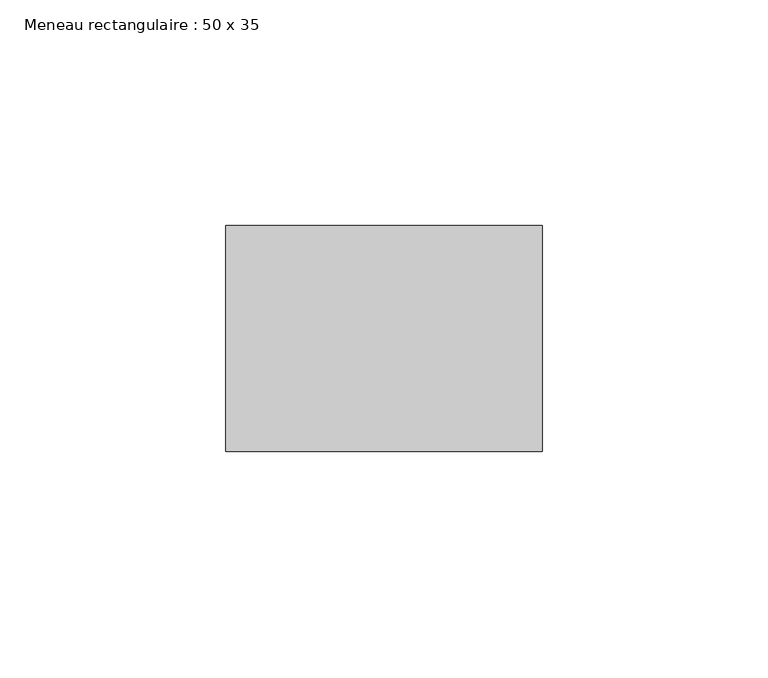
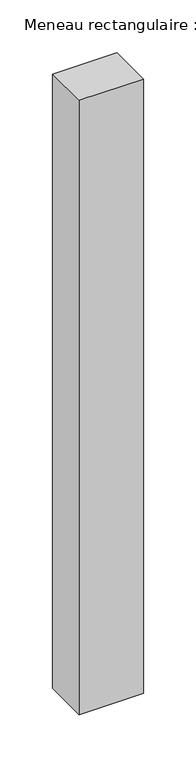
"""IFC4 building model written with IfcOpenShell, lengths in millimetres: member geometry, Meneau rectangulaire : 50 x 35."""

from ifc_helpers import new_model, si_unit, frame, origin, place, context, project, spatial, polyline, outline, extrude, source, transform, mapped, element, save


def meneau_rectangulaire_50_x_35_43e28707(model_context):
    return source(origin(), model_context, "Body", "SweptSolid", [
        extrude(outline(polyline([(0.0, 0.0), (0.0, -50.0), (-70.0, -50.0), (-70.0, 0.0), (0.0, 0.0)])), frame((0.0, 0.0, -709.0), z_axis=(0.0, 0.0, 1.0), x_axis=(1.0, 0.0, 0.0)), (0.0, 0.0, 1.0), 709.0),
    ])


if __name__ == "__main__":
    model = new_model("IFC4")
    model_context = context("Model", 3, world=origin())
    ifc_project = project(units=[si_unit("LENGTHUNIT", "METRE", prefix="MILLI")], contexts=[model_context])
    site = spatial("IfcSite", under=ifc_project)
    building = spatial("IfcBuilding", under=site)
    placement = place(None, origin())
    meneau_rectangulaire_50_x_35_shape = meneau_rectangulaire_50_x_35_43e28707(model_context)
    element("IfcMember", 1, ObjectType="Meneau rectangulaire : 50 x 35", at=placement, inside=building, context=model_context, shape_type="MappedRepresentation", body=[
        mapped(meneau_rectangulaire_50_x_35_shape, transform((0.0, 0.0, 0.0), x_axis=(1.0, 0.0, 0.0), y_axis=(0.0, 1.0, 0.0), z_axis=(0.0, 0.0, 1.0))),
    ])
    save(model, "model.ifc")
